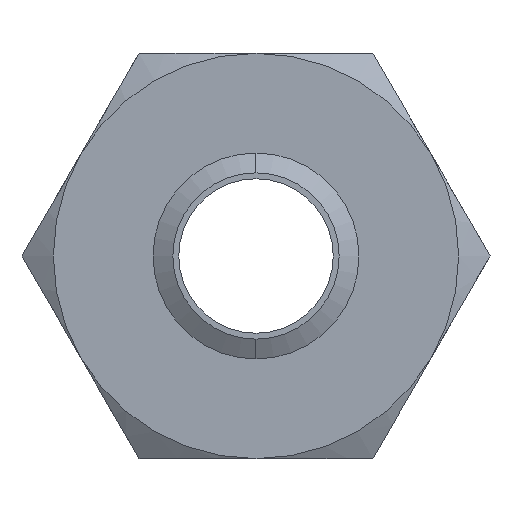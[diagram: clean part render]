
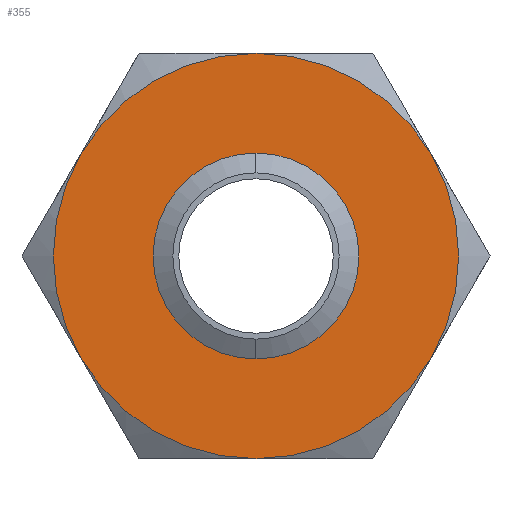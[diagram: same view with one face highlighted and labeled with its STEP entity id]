
A CAD part, front view. The second image highlights one B-rep face of the part: STEP entity #355.
In plain terms, the highlighted planar face has unit normal (0, -1, 0).
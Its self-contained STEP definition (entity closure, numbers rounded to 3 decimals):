
#134 = VERTEX_POINT ( 'NONE', #918 ) ;
#135 = VERTEX_POINT ( 'NONE', #912 ) ;
#138 = EDGE_CURVE ( 'NONE', #135, #134, #905, .T. ) ;
#153 = EDGE_CURVE ( 'NONE', #383, #156, #934, .T. ) ;
#155 = ORIENTED_EDGE ( 'NONE', *, *, #153, .F. ) ;
#156 = VERTEX_POINT ( 'NONE', #928 ) ;
#157 = ORIENTED_EDGE ( 'NONE', *, *, #158, .F. ) ;
#158 = EDGE_CURVE ( 'NONE', #156, #330, #927, .T. ) ;
#164 = ORIENTED_EDGE ( 'NONE', *, *, #138, .F. ) ;
#165 = EDGE_CURVE ( 'NONE', #330, #331, #977, .T. ) ;
#168 = EDGE_CURVE ( 'NONE', #134, #135, #968, .T. ) ;
#329 = ORIENTED_EDGE ( 'NONE', *, *, #349, .F. ) ;
#330 = VERTEX_POINT ( 'NONE', #1360 ) ;
#331 = VERTEX_POINT ( 'NONE', #1359 ) ;
#337 = VERTEX_POINT ( 'NONE', #1355 ) ;
#338 = ORIENTED_EDGE ( 'NONE', *, *, #366, .F. ) ;
#339 = ORIENTED_EDGE ( 'NONE', *, *, #165, .F. ) ;
#343 = EDGE_LOOP ( 'NONE', ( #164, #344 ) ) ;
#344 = ORIENTED_EDGE ( 'NONE', *, *, #168, .F. ) ;
#347 = EDGE_CURVE ( 'NONE', #331, #337, #1338, .T. ) ;
#348 = ORIENTED_EDGE ( 'NONE', *, *, #347, .F. ) ;
#349 = EDGE_CURVE ( 'NONE', #358, #383, #1402, .T. ) ;
#355 = ADVANCED_FACE ( 'NONE', ( #1392, #1391 ), #1389, .F. ) ;
#356 = EDGE_LOOP ( 'NONE', ( #329, #338, #348, #339, #157, #155 ) ) ;
#358 = VERTEX_POINT ( 'NONE', #1378 ) ;
#366 = EDGE_CURVE ( 'NONE', #337, #358, #1429, .T. ) ;
#383 = VERTEX_POINT ( 'NONE', #1403 ) ;
#901 = DIRECTION ( 'NONE',  ( 0., 0., -1. ) ) ;
#902 = DIRECTION ( 'NONE',  ( 0., -1., 0. ) ) ;
#903 = CARTESIAN_POINT ( 'NONE',  ( 0., 0., 0. ) ) ;
#904 = AXIS2_PLACEMENT_3D ( 'NONE', #903, #902, #901 ) ;
#905 = CIRCLE ( 'NONE', #904, 15.387 ) ;
#912 = CARTESIAN_POINT ( 'NONE',  ( 0., 0., -15.387 ) ) ;
#918 = CARTESIAN_POINT ( 'NONE',  ( 0., 0., 15.387 ) ) ;
#924 = DIRECTION ( 'NONE',  ( 0., 1., 0. ) ) ;
#925 = CARTESIAN_POINT ( 'NONE',  ( 0., 0., 0. ) ) ;
#926 = AXIS2_PLACEMENT_3D ( 'NONE', #925, #924, #986 ) ;
#927 = CIRCLE ( 'NONE', #926, 37.5 ) ;
#928 = CARTESIAN_POINT ( 'NONE',  ( 32.476, 0., -18.75 ) ) ;
#930 = DIRECTION ( 'NONE',  ( 0., 0., 1. ) ) ;
#931 = DIRECTION ( 'NONE',  ( 0., 1., 0. ) ) ;
#932 = CARTESIAN_POINT ( 'NONE',  ( 0., 0., 0. ) ) ;
#933 = AXIS2_PLACEMENT_3D ( 'NONE', #932, #931, #930 ) ;
#934 = CIRCLE ( 'NONE', #933, 37.5 ) ;
#964 = DIRECTION ( 'NONE',  ( 0., 0., -1. ) ) ;
#965 = DIRECTION ( 'NONE',  ( 0., -1., 0. ) ) ;
#966 = CARTESIAN_POINT ( 'NONE',  ( 0., 0., 0. ) ) ;
#967 = AXIS2_PLACEMENT_3D ( 'NONE', #966, #965, #964 ) ;
#968 = CIRCLE ( 'NONE', #967, 15.387 ) ;
#973 = DIRECTION ( 'NONE',  ( 0., 0., 1. ) ) ;
#974 = DIRECTION ( 'NONE',  ( 0., 1., 0. ) ) ;
#975 = CARTESIAN_POINT ( 'NONE',  ( 0., 0., 0. ) ) ;
#976 = AXIS2_PLACEMENT_3D ( 'NONE', #975, #974, #973 ) ;
#977 = CIRCLE ( 'NONE', #976, 37.5 ) ;
#986 = DIRECTION ( 'NONE',  ( 0., 0., 1. ) ) ;
#1107 = CARTESIAN_POINT ( 'NONE',  ( 0., 0., 0. ) ) ;
#1109 = DIRECTION ( 'NONE',  ( 0., 0., 1. ) ) ;
#1110 = DIRECTION ( 'NONE',  ( 0., 1., 0. ) ) ;
#1112 = AXIS2_PLACEMENT_3D ( 'NONE', #1107, #1110, #1109 ) ;
#1338 = CIRCLE ( 'NONE', #1112, 37.5 ) ;
#1355 = CARTESIAN_POINT ( 'NONE',  ( -32.476, 0., 18.75 ) ) ;
#1359 = CARTESIAN_POINT ( 'NONE',  ( -32.476, 0., -18.75 ) ) ;
#1360 = CARTESIAN_POINT ( 'NONE',  ( 0., 0., -37.5 ) ) ;
#1376 = DIRECTION ( 'NONE',  ( 0., 0., 1. ) ) ;
#1377 = DIRECTION ( 'NONE',  ( 0., 1., 0. ) ) ;
#1378 = CARTESIAN_POINT ( 'NONE',  ( 0., 0., 37.5 ) ) ;
#1387 = CARTESIAN_POINT ( 'NONE',  ( 21.651, 0., -37.5 ) ) ;
#1388 = AXIS2_PLACEMENT_3D ( 'NONE', #1387, #1377, #1376 ) ;
#1389 = PLANE ( 'NONE',  #1388 ) ;
#1391 = FACE_BOUND ( 'NONE', #343, .T. ) ;
#1392 = FACE_OUTER_BOUND ( 'NONE', #356, .T. ) ;
#1397 = DIRECTION ( 'NONE',  ( 0., 0., 1. ) ) ;
#1398 = DIRECTION ( 'NONE',  ( 0., 1., 0. ) ) ;
#1399 = CARTESIAN_POINT ( 'NONE',  ( 0., 0., 0. ) ) ;
#1401 = AXIS2_PLACEMENT_3D ( 'NONE', #1399, #1398, #1397 ) ;
#1402 = CIRCLE ( 'NONE', #1401, 37.5 ) ;
#1403 = CARTESIAN_POINT ( 'NONE',  ( 32.476, 0., 18.75 ) ) ;
#1421 = DIRECTION ( 'NONE',  ( 0., 0., 1. ) ) ;
#1422 = DIRECTION ( 'NONE',  ( 0., 1., 0. ) ) ;
#1423 = CARTESIAN_POINT ( 'NONE',  ( 0., 0., 0. ) ) ;
#1424 = AXIS2_PLACEMENT_3D ( 'NONE', #1423, #1422, #1421 ) ;
#1429 = CIRCLE ( 'NONE', #1424, 37.5 ) ;
